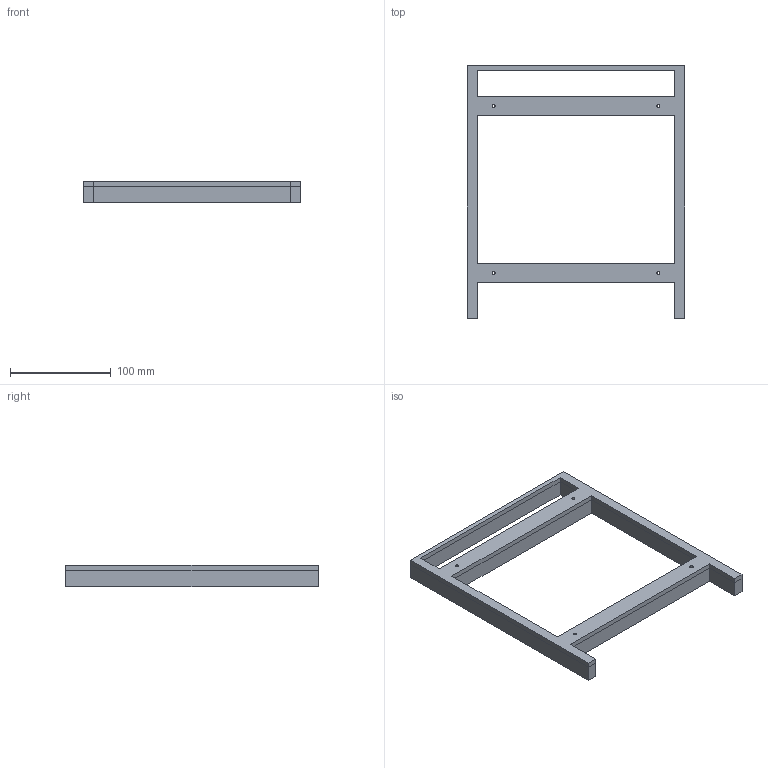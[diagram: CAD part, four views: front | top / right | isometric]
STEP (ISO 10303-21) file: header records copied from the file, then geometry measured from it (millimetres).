
FILE_DESCRIPTION(/* description */ (''),/* implementation_level */ '2;1');
FILE_NAME(/* name */ 'Unterschrank Adapter',/* time_stamp */ '2026-08-11T13:37:56+02:00',/* author */ (''),/* organization */ (''),/* preprocessor_version */ 'ST-DEVELOPER v19.2',/* originating_system */ 'Rhino 8.33',/* authorisation */ '');
FILE_SCHEMA (('CONFIG_CONTROL_DESIGN'));
Length unit declared in the file: millimetre
Products named in the file (1): Document
Bounding box: 215.2 x 250 x 21 mm (x, y, z)
Volume: 272433.1 mm3; surface area: 71477.3 mm2
Topology: 1 solids, 1 shells, 49 faces, 119 edges, 72 vertices
Faces by surface type: plane 33, cylinder 16
Entity records: 1415 total; most frequent: CARTESIAN_POINT 381, ORIENTED_EDGE 238, EDGE_CURVE 119, DIRECTION 97, B_SPLINE_CURVE_WITH_KNOTS 87, VERTEX_POINT 72, AXIS2_PLACEMENT_3D 71, EDGE_LOOP 61
